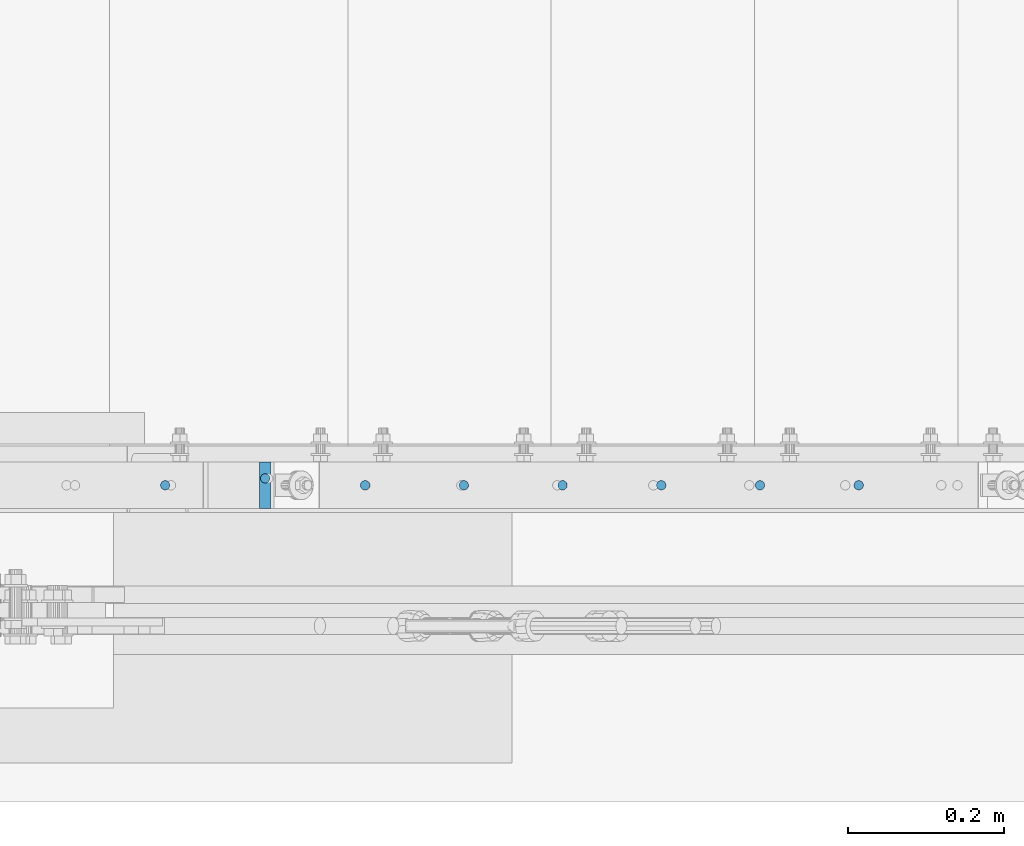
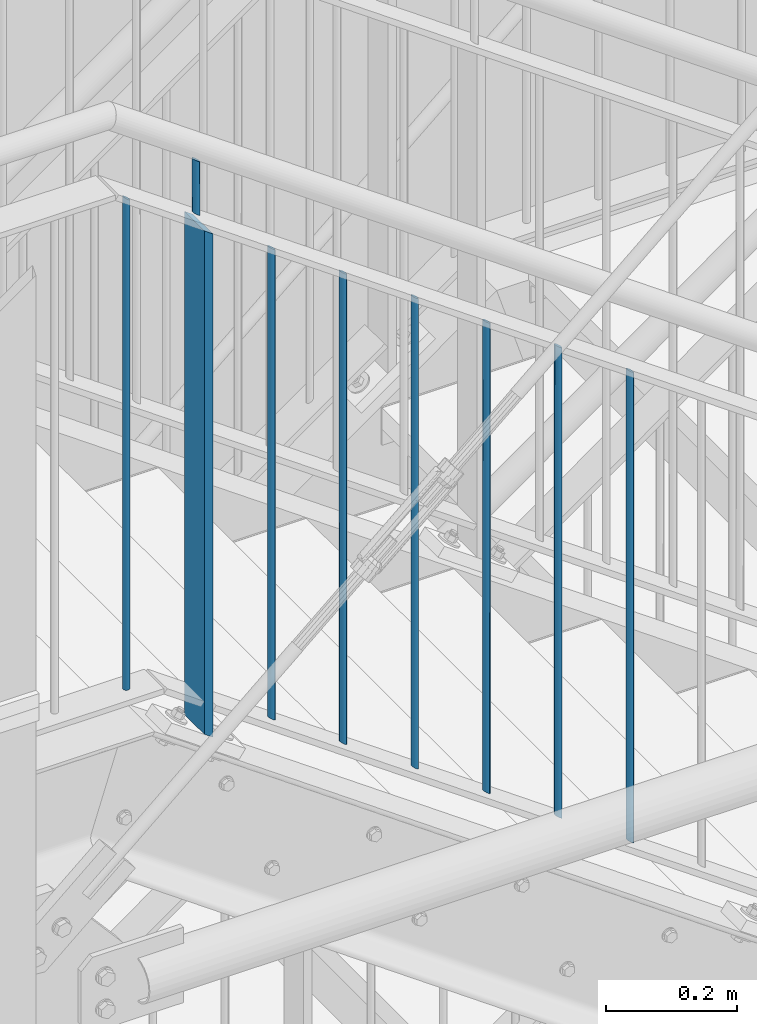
# One storey, part 32 of 821: 9 columns.
"""IFC2X3 building model written with IfcOpenShell, lengths in millimetres."""

from ifc_helpers import new_model, entity, si_unit, converted_unit, frame, origin, origin_with_axes, origin_2d, place, context, project, spatial, rectangle, circle, extrude, clip, halfspace, material, element, save


model = new_model("IFC2X3")

# Units and contexts
model_context = context("Model", 3, precision=1e-09, world=origin_with_axes())
ifc_project = project(units=[si_unit("LENGTHUNIT", "METRE", prefix="MILLI"), si_unit("AREAUNIT", "SQUARE_METRE"), si_unit("VOLUMEUNIT", "CUBIC_METRE"), converted_unit("PLANEANGLEUNIT", "DEGREE", entity("IfcPlaneAngleMeasure", 0.01745329), si_unit("PLANEANGLEUNIT", "RADIAN"), dimensions=[0, 0, 0, 0, 0, 0, 0])], contexts=[model_context])

# Site, building, storey
site_placement = place(None, origin_with_axes())
site = spatial("IfcSite", under=ifc_project, at=site_placement, Name="Cnopf'sche Kinderklinik", CompositionType="ELEMENT")
building_placement = place(site_placement, origin_with_axes())
building = spatial("IfcBuilding", under=site, at=building_placement, Name="Struktur 1", CompositionType="ELEMENT")
storey_placement = place(building_placement, origin_with_axes())
storey = spatial("IfcBuildingStorey", under=building, at=storey_placement, Name="Default Storey", CompositionType="ELEMENT", Elevation=0.0)

# Columns
ifc_material = material(Name="S235JR")
column_1_placement = place(None, frame((5390.942756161, 4526.736971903, 4776.857771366), z_axis=(0.0, 0.0, 1.0), x_axis=(-1.0, 0.0, 0.0)))
element("IfcColumn", 1, at=column_1_placement, inside=storey, material=ifc_material, Name="Railing_Post_Stair#10", ObjectType="Railing_Post_Stair#10", context=model_context, shape_type="Clipping", body=[
    clip(clip(extrude(rectangle(XDim=15.0, YDim=60.0, at=origin_2d()), origin(), (0.0, 0.0, -1.0), 1013.069146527), halfspace(frame((1338.619640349, 4526.736971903, 915.06039399), z_axis=(0.579973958, 0.0, -0.814635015), x_axis=(0.0, 1.0, 0.0)), True)), halfspace(frame((1781.39090771, 4526.736971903, 293.141127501), z_axis=(-0.579973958, 0.0, 0.814635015), x_axis=(0.0, -1.0, 0.0)), True)),
])
column_2_placement = place(None, frame((6150.000354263, 4526.736971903, 4208.908148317), z_axis=(0.0, 0.0, 1.0), x_axis=(-1.0, 0.0, 0.0)))
element("IfcColumn", 2, at=column_2_placement, inside=storey, material=ifc_material, Name="Railing_Picket_Stair#64", ObjectType="Railing_Picket_Stair#64", context=model_context, shape_type="Clipping", body=[
    clip(clip(extrude(circle(Radius=6.0, at=origin_2d()), origin(), (0.0, 0.0, -1.0), 896.604693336), halfspace(frame((2097.677238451, 4526.736971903, 1483.010017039), z_axis=(0.579973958, 0.0, -0.814635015), x_axis=(0.0, 1.0, 0.0)), True)), halfspace(frame((2511.44980793, 4526.736971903, 901.822501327), z_axis=(-0.579973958, 0.0, 0.814635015), x_axis=(0.0, -1.0, 0.0)), True)),
])
column_3_placement = place(None, frame((6023.740834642, 4526.736971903, 4298.797769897), z_axis=(0.0, 0.0, 1.0), x_axis=(-1.0, 0.0, 0.0)))
element("IfcColumn", 3, at=column_3_placement, inside=storey, material=ifc_material, Name="Railing_Picket_Stair#65", ObjectType="Railing_Picket_Stair#65", context=model_context, shape_type="Clipping", body=[
    clip(clip(extrude(circle(Radius=6.0, at=origin_2d()), origin(), (0.0, 0.0, -1.0), 896.604693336), halfspace(frame((1971.417718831, 4526.736971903, 1393.120395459), z_axis=(0.579973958, 0.0, -0.814635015), x_axis=(0.0, 1.0, 0.0)), True)), halfspace(frame((2385.190288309, 4526.736971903, 811.932879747), z_axis=(-0.579973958, 0.0, 0.814635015), x_axis=(0.0, -1.0, 0.0)), True)),
])
column_4_placement = place(None, frame((5897.481315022, 4526.736971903, 4388.687391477), z_axis=(0.0, 0.0, 1.0), x_axis=(-1.0, 0.0, 0.0)))
element("IfcColumn", 4, at=column_4_placement, inside=storey, material=ifc_material, Name="Railing_Picket_Stair#66", ObjectType="Railing_Picket_Stair#66", context=model_context, shape_type="Clipping", body=[
    clip(clip(extrude(circle(Radius=6.0, at=origin_2d()), origin(), (0.0, 0.0, -1.0), 896.604693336), halfspace(frame((1845.15819921, 4526.736971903, 1303.230773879), z_axis=(0.579973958, 0.0, -0.814635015), x_axis=(0.0, 1.0, 0.0)), True)), halfspace(frame((2258.930768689, 4526.736971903, 722.043258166), z_axis=(-0.579973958, 0.0, 0.814635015), x_axis=(0.0, -1.0, 0.0)), True)),
])
column_5_placement = place(None, frame((5771.221795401, 4526.736971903, 4478.577013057), z_axis=(0.0, 0.0, 1.0), x_axis=(-1.0, 0.0, 0.0)))
element("IfcColumn", 5, at=column_5_placement, inside=storey, material=ifc_material, Name="Railing_Picket_Stair#67", ObjectType="Railing_Picket_Stair#67", context=model_context, shape_type="Clipping", body=[
    clip(clip(extrude(circle(Radius=6.0, at=origin_2d()), origin(), (0.0, 0.0, -1.0), 896.604693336), halfspace(frame((1718.89867959, 4526.736971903, 1213.341152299), z_axis=(0.579973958, 0.0, -0.814635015), x_axis=(0.0, 1.0, 0.0)), True)), halfspace(frame((2132.671249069, 4526.736971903, 632.153636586), z_axis=(-0.579973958, 0.0, 0.814635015), x_axis=(0.0, -1.0, 0.0)), True)),
])
column_6_placement = place(None, frame((5644.962275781, 4526.736971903, 4568.466634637), z_axis=(0.0, 0.0, 1.0), x_axis=(-1.0, 0.0, 0.0)))
element("IfcColumn", 6, at=column_6_placement, inside=storey, material=ifc_material, Name="Railing_Picket_Stair#68", ObjectType="Railing_Picket_Stair#68", context=model_context, shape_type="Clipping", body=[
    clip(clip(extrude(circle(Radius=6.0, at=origin_2d()), origin(), (0.0, 0.0, -1.0), 896.604693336), halfspace(frame((1592.639159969, 4526.736971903, 1123.451530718), z_axis=(0.579973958, 0.0, -0.814635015), x_axis=(0.0, 1.0, 0.0)), True)), halfspace(frame((2006.411729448, 4526.736971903, 542.264015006), z_axis=(-0.579973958, 0.0, 0.814635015), x_axis=(0.0, -1.0, 0.0)), True)),
])
column_7_placement = place(None, frame((5518.702756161, 4526.736971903, 4658.356256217), z_axis=(0.0, 0.0, 1.0), x_axis=(-1.0, 0.0, 0.0)))
element("IfcColumn", 7, at=column_7_placement, inside=storey, material=ifc_material, Name="Railing_Picket_Stair#69", ObjectType="Railing_Picket_Stair#69", context=model_context, shape_type="Clipping", body=[
    clip(clip(extrude(circle(Radius=6.0, at=origin_2d()), origin(), (0.0, 0.0, -1.0), 896.604693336), halfspace(frame((1466.379640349, 4526.736971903, 1033.561909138), z_axis=(0.579973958, 0.0, -0.814635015), x_axis=(0.0, 1.0, 0.0)), True)), halfspace(frame((1880.152209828, 4526.736971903, 452.374393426), z_axis=(-0.579973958, 0.0, 0.814635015), x_axis=(0.0, -1.0, 0.0)), True)),
])
column_8_placement = place(None, frame((5263.182756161, 4526.736971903, 4840.272013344), z_axis=(0.0, 0.0, 1.0), x_axis=(-1.0, 0.0, 0.0)))
element("IfcColumn", 8, at=column_8_placement, inside=storey, material=ifc_material, Name="Railing_Picket_Landing#70", ObjectType="Railing_Picket_Landing#70", context=model_context, shape_type="Clipping", body=[
    clip(extrude(circle(Radius=6.0, at=origin_2d()), origin(), (0.0, 0.0, -1.0), 923.272013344), halfspace(frame((1210.859640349, 4526.736971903, 851.646152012), z_axis=(0.579973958, 0.0, -0.814635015), x_axis=(0.0, 1.0, 0.0)), True)),
])
column_9_placement = place(None, frame((5390.942756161, 4535.536971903, 4861.589570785), z_axis=(0.0, 0.0, 1.0), x_axis=(0.0, 1.0, 0.0)))
element("IfcColumn", 9, at=column_9_placement, inside=storey, material=ifc_material, Name="Bar#10", ObjectType="Bar#10", context=model_context, shape_type="Clipping", body=[
    clip(clip(extrude(circle(Radius=6.0, at=origin_2d()), origin(), (0.0, 0.0, -1.0), 120.832105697), halfspace(frame((-4535.536971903, 1285.57319138, 904.837965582), z_axis=(0.0, 0.579973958, -0.814635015), x_axis=(-1.0, 0.0, 0.0)), True)), halfspace(frame((-4535.536971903, 1332.818740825, 838.476573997), z_axis=(0.0, -0.579973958, 0.814635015), x_axis=(1.0, 0.0, 0.0)), True)),
])

save(model, "model.ifc")
